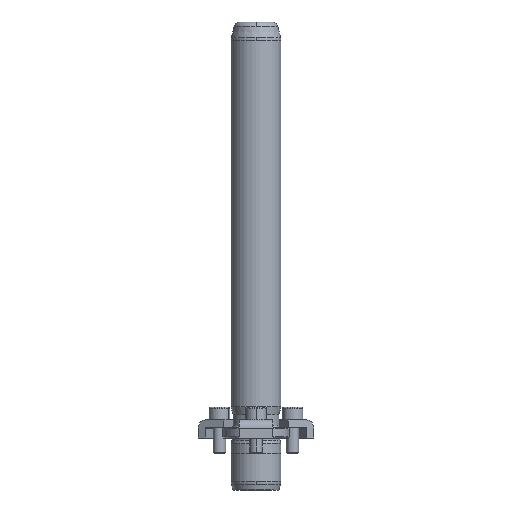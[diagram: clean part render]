
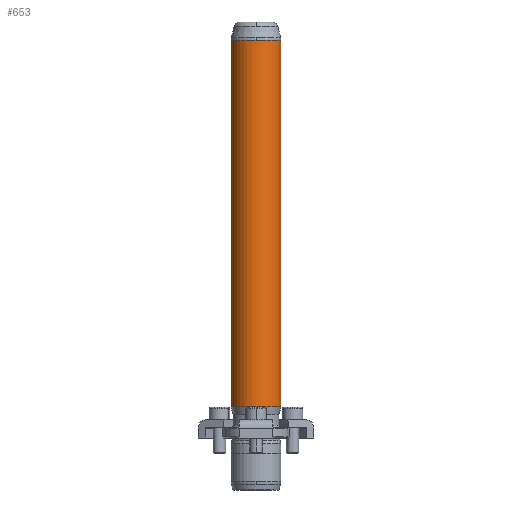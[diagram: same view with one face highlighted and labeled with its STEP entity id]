
A CAD part, front view. The second image highlights one B-rep face of the part: STEP entity #653.
In plain terms, the highlighted cylindrical face has radius 12 mm (diameter 24 mm), a partial arc.
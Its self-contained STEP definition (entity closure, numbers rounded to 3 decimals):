
#566=CARTESIAN_POINT('',(0.0,-12.,191.342));
#567=VERTEX_POINT('',#566);
#594=CARTESIAN_POINT('',(-12.0,0.,191.342));
#595=VERTEX_POINT('',#594);
#603=CARTESIAN_POINT('',(0.0,0.,191.342));
#604=DIRECTION('',(0.0,0.0,1.0));
#605=DIRECTION('',(1.0,0.0,0.0));
#606=AXIS2_PLACEMENT_3D('',#603,#604,#605);
#607=CIRCLE('',#606,12.0);
#608=EDGE_CURVE('',#595,#567,#607,.T.);
#613=CARTESIAN_POINT('',(0.0,0.,103.171));
#614=DIRECTION('',(0.0,0.,1.0));
#615=DIRECTION('',(1.0,0.0,0.0));
#616=AXIS2_PLACEMENT_3D('',#613,#614,#615);
#617=CYLINDRICAL_SURFACE('',#616,12.0);
#618=CARTESIAN_POINT('',(12.0,0.,191.342));
#619=VERTEX_POINT('',#618);
#620=CARTESIAN_POINT('',(12.0,0.,15.0));
#621=VERTEX_POINT('',#620);
#622=CARTESIAN_POINT('',(12.0,0.,191.342));
#623=DIRECTION('',(0.0,0.0,-1.0));
#624=VECTOR('',#623,176.342);
#625=LINE('',#622,#624);
#626=EDGE_CURVE('',#619,#621,#625,.T.);
#627=ORIENTED_EDGE('',*,*,#626,.F.);
#628=CARTESIAN_POINT('',(0.0,0.,191.342));
#629=DIRECTION('',(0.0,0.0,1.0));
#630=DIRECTION('',(1.0,0.0,0.0));
#631=AXIS2_PLACEMENT_3D('',#628,#629,#630);
#632=CIRCLE('',#631,12.0);
#633=EDGE_CURVE('',#567,#619,#632,.T.);
#634=ORIENTED_EDGE('',*,*,#633,.F.);
#635=ORIENTED_EDGE('',*,*,#608,.F.);
#636=CARTESIAN_POINT('',(-12.,0.,15.0));
#637=VERTEX_POINT('',#636);
#638=CARTESIAN_POINT('',(-12.0,0.,191.342));
#639=DIRECTION('',(0.0,0.0,-1.0));
#640=VECTOR('',#639,176.342);
#641=LINE('',#638,#640);
#642=EDGE_CURVE('',#595,#637,#641,.T.);
#643=ORIENTED_EDGE('',*,*,#642,.T.);
#644=CARTESIAN_POINT('',(0.0,0.,15.0));
#645=DIRECTION('',(0.0,0.0,1.0));
#646=DIRECTION('',(1.0,0.0,0.0));
#647=AXIS2_PLACEMENT_3D('',#644,#645,#646);
#648=CIRCLE('',#647,12.0);
#649=EDGE_CURVE('',#637,#621,#648,.T.);
#650=ORIENTED_EDGE('',*,*,#649,.T.);
#651=EDGE_LOOP('',(#627,#634,#635,#643,#650));
#652=FACE_OUTER_BOUND('',#651,.T.);
#653=ADVANCED_FACE('',(#652),#617,.T.);
